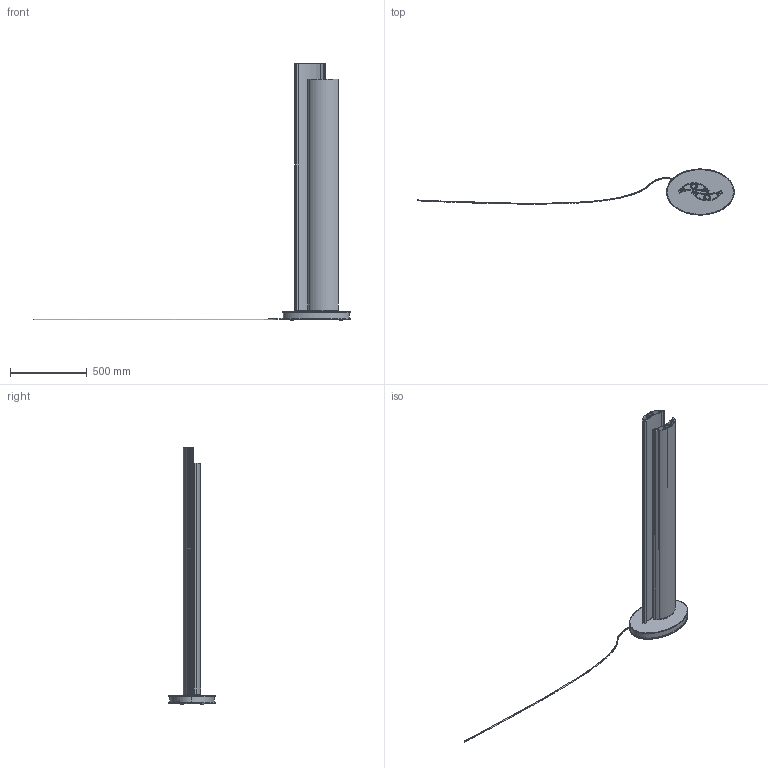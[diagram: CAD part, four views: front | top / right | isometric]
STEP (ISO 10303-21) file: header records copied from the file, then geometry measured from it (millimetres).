
FILE_DESCRIPTION(/* description */ (''),/* implementation_level */ '2;1');
FILE_NAME(/* name */ 'FSTID1755LE',/* time_stamp */ '2026-03-04T16:15:34+01:00',/* author */ (''),/* organization */ (''),/* preprocessor_version */ 'ST-DEVELOPER v16.5',/* originating_system */ 'Rhino 7.38',/* authorisation */ '');
FILE_SCHEMA (('CONFIG_CONTROL_DESIGN'));
Length unit declared in the file: millimetre
Products named in the file (1): Document
Bounding box: 2057.84 x 299.86 x 1665 mm (x, y, z)
Volume: 13305110.2 mm3; surface area: 4952341.1 mm2
Topology: 9 solids, 9 shells, 368 faces, 1006 edges, 664 vertices
Faces by surface type: plane 220, cylinder 128, bspline 20
Entity records: 24499 total; most frequent: CARTESIAN_POINT 17844, ORIENTED_EDGE 2012, EDGE_CURVE 1006, B_SPLINE_CURVE_WITH_KNOTS 675, VERTEX_POINT 664, EDGE_LOOP 388, ADVANCED_FACE 368, FACE_OUTER_BOUND 368
